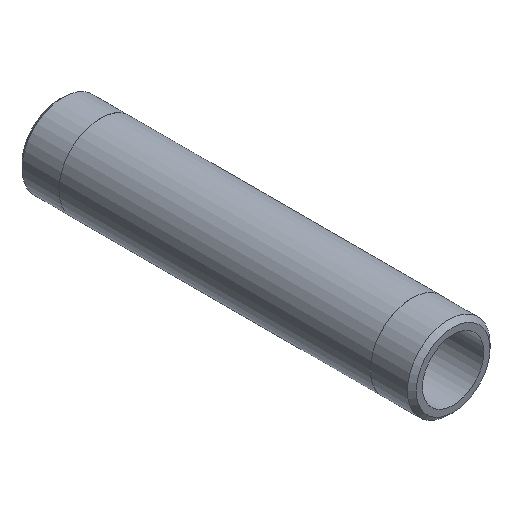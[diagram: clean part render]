
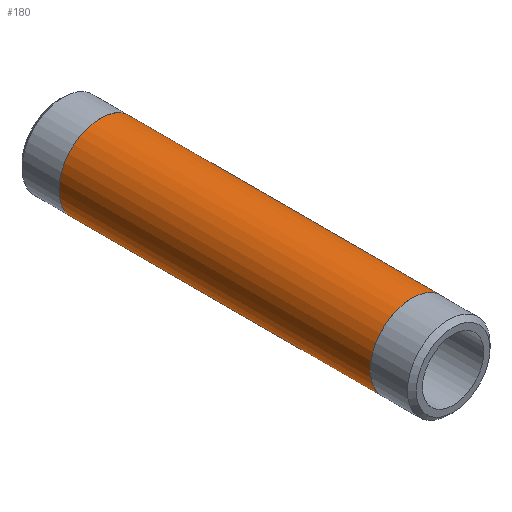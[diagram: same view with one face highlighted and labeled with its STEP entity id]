
A CAD part, isometric view. The second image highlights one B-rep face of the part: STEP entity #180.
In plain terms, the highlighted cylindrical face has radius 10.668 mm (diameter 21.336 mm), a full revolution.
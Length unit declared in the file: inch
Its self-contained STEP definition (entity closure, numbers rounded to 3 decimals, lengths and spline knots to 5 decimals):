
#25=CYLINDRICAL_SURFACE('',#220,0.42);
#34=FACE_OUTER_BOUND('',#47,.T.);
#47=EDGE_LOOP('',(#155,#156,#157,#158,#159,#160));
#55=LINE('',#338,#61);
#61=VECTOR('',#283,0.42);
#77=CIRCLE('',#218,0.42);
#78=CIRCLE('',#219,0.42);
#79=CIRCLE('',#221,0.42);
#80=CIRCLE('',#222,0.42);
#95=VERTEX_POINT('',#329);
#96=VERTEX_POINT('',#330);
#97=VERTEX_POINT('',#334);
#98=VERTEX_POINT('',#335);
#117=EDGE_CURVE('',#95,#96,#77,.T.);
#118=EDGE_CURVE('',#96,#95,#78,.T.);
#119=EDGE_CURVE('',#97,#98,#79,.T.);
#120=EDGE_CURVE('',#98,#97,#80,.T.);
#121=EDGE_CURVE('',#98,#96,#55,.T.);
#155=ORIENTED_EDGE('',*,*,#119,.F.);
#156=ORIENTED_EDGE('',*,*,#120,.F.);
#157=ORIENTED_EDGE('',*,*,#121,.T.);
#158=ORIENTED_EDGE('',*,*,#118,.T.);
#159=ORIENTED_EDGE('',*,*,#117,.T.);
#160=ORIENTED_EDGE('',*,*,#121,.F.);
#180=ADVANCED_FACE('',(#34),#25,.T.);
#218=AXIS2_PLACEMENT_3D('',#331,#273,#274);
#219=AXIS2_PLACEMENT_3D('',#332,#275,#276);
#220=AXIS2_PLACEMENT_3D('',#333,#277,#278);
#221=AXIS2_PLACEMENT_3D('',#336,#279,#280);
#222=AXIS2_PLACEMENT_3D('',#337,#281,#282);
#273=DIRECTION('center_axis',(0.,-1.,0.));
#274=DIRECTION('ref_axis',(1.,0.,0.));
#275=DIRECTION('center_axis',(0.,-1.,0.));
#276=DIRECTION('ref_axis',(1.,0.,0.));
#277=DIRECTION('center_axis',(0.,-1.,0.));
#278=DIRECTION('ref_axis',(0.,0.,-1.));
#279=DIRECTION('center_axis',(0.,-1.,0.));
#280=DIRECTION('ref_axis',(1.,0.,0.));
#281=DIRECTION('center_axis',(0.,-1.,0.));
#282=DIRECTION('ref_axis',(1.,0.,0.));
#283=DIRECTION('',(0.,1.,0.));
#329=CARTESIAN_POINT('',(0.,3.58,-0.42));
#330=CARTESIAN_POINT('',(0.,3.58,0.42));
#331=CARTESIAN_POINT('Origin',(0.,3.58,0.));
#332=CARTESIAN_POINT('Origin',(0.,3.58,0.));
#333=CARTESIAN_POINT('Origin',(0.,2.,0.));
#334=CARTESIAN_POINT('',(0.,0.42,-0.42));
#335=CARTESIAN_POINT('',(0.,0.42,0.42));
#336=CARTESIAN_POINT('Origin',(0.,0.42,0.));
#337=CARTESIAN_POINT('Origin',(0.,0.42,0.));
#338=CARTESIAN_POINT('',(0.,2.,0.42));
